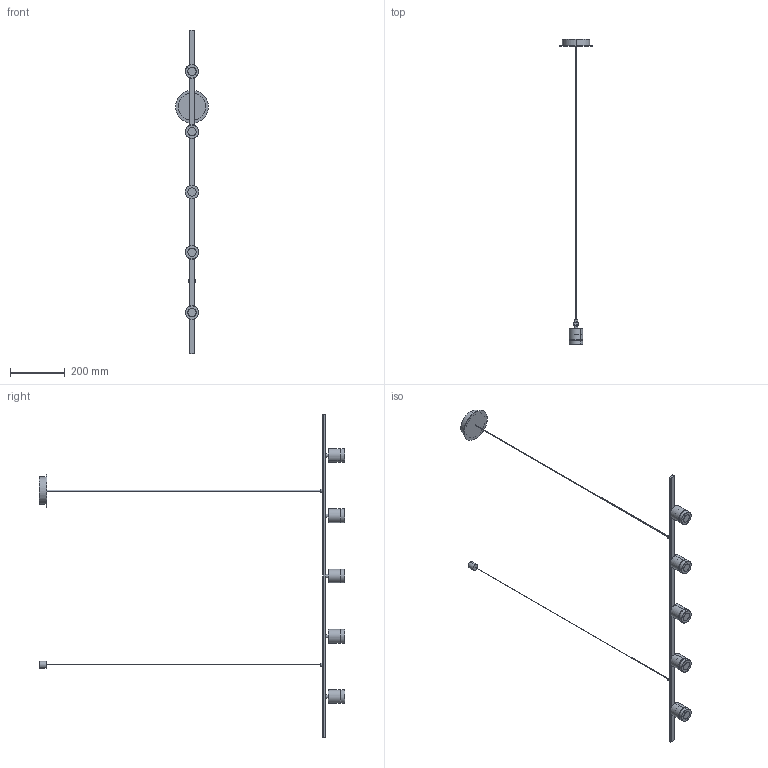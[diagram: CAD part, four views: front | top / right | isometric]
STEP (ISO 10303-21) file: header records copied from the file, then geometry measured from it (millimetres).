
FILE_DESCRIPTION (( 'STEP AP214' ), '1' );
FILE_NAME ('TEA_C1338_5.STEP', '2024-10-21T11:48:41', ( '' ), ( '' ), 'SwSTEP 2.0', 'SolidWorks 2018', '' );
FILE_SCHEMA (( 'AUTOMOTIVE_DESIGN' ));
Length unit declared in the file: millimetre
Products named in the file (3): regalo; pletina; TEA_C1338_5
Assembly tree (6 placements, depth 2):
  TEA_C1338_5
    pletina
    regalo  x5
Bounding box: 120 x 1115.2 x 1180 mm (x, y, z)
Volume: 925566.9 mm3; surface area: 255398.9 mm2
Topology: 26 solids, 31 shells, 186 faces, 316 edges, 186 vertices
Faces by surface type: cylinder 76, plane 68, torus 34, sphere 8
Entity records: 2552 total; most frequent: DIRECTION 486, CARTESIAN_POINT 369, ORIENTED_EDGE 328, AXIS2_PLACEMENT_3D 215, EDGE_CURVE 164, CIRCLE 108, EDGE_LOOP 100, VERTEX_POINT 98
